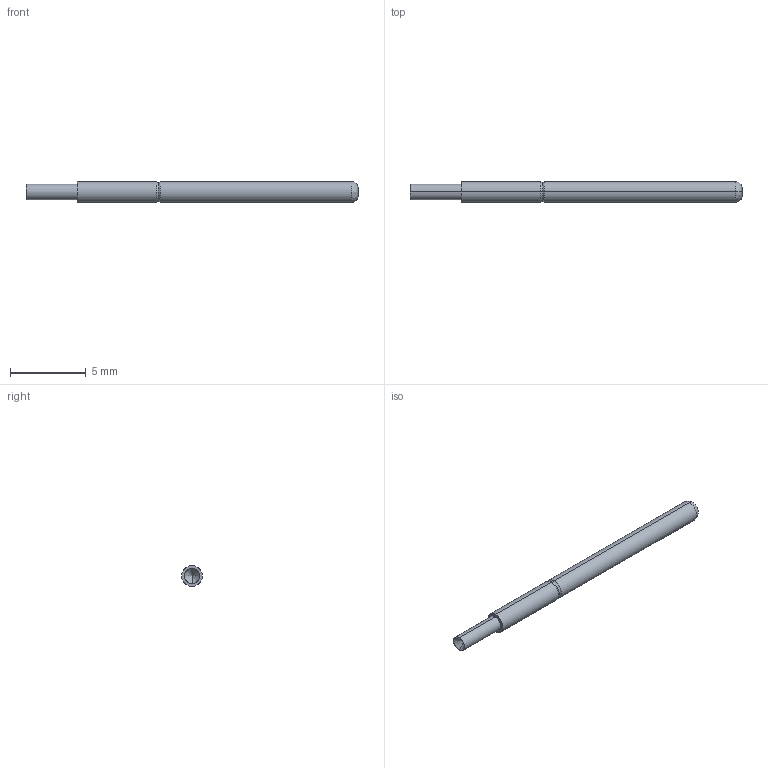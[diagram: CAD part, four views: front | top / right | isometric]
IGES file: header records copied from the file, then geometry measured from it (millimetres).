
Start section: SolidWorks IGES file using analytic representation for surfaces
Global section: file name: Z:\probe solid model mockups\Solidworks models\IGES Files\EPA-2\EPA-2G40 RECD.IGS; native system: SolidWorks 2006 by SolidWorks Corporation; preprocessor: SolidWorks 2006 by SolidWorks Corporation; author: tsakatani; date: 071220.162020; units: inch
Bounding box: 21.92 x 1.37 x 1.37 mm (x, y, z)
Surface area: 93.2 mm2 (no closed solid volume)
Topology: 0 solids, 0 shells, 16 faces, 104 edges, 102 vertices
Faces by surface type: bspline 8, revolution 8
